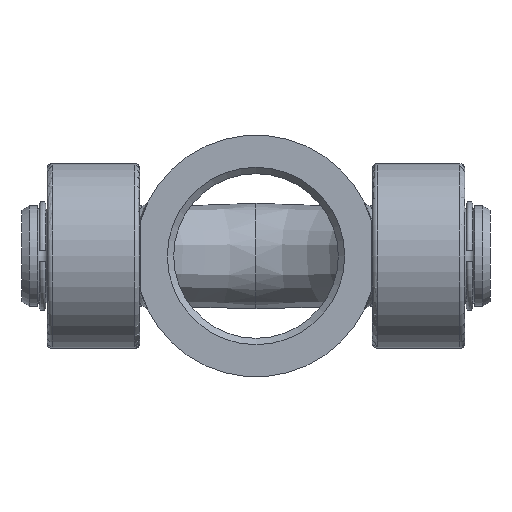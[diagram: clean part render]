
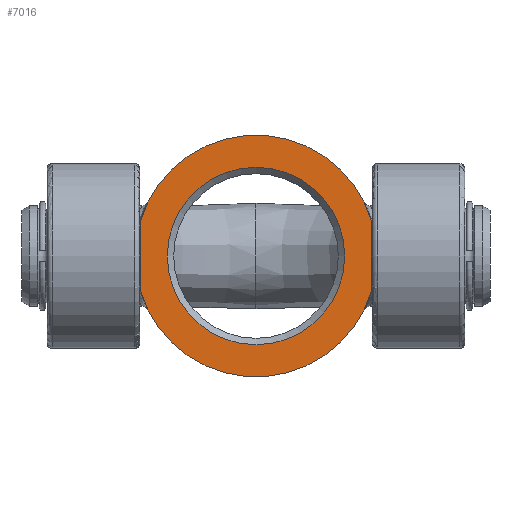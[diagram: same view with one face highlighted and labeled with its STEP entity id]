
A CAD part, front view. The second image highlights one B-rep face of the part: STEP entity #7016.
In plain terms, the highlighted planar face has unit normal (0, -1, 0) as drawn and (0, 0, -1) by its records, which use the part's own axes.
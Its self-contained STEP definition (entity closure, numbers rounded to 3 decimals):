
#290=LINE('',#9743,#700);
#296=LINE('',#10154,#706);
#700=VECTOR('',#8048,10.);
#706=VECTOR('',#8136,10.);
#1505=PLANE('',#7480);
#1752=FACE_BOUND('',#2237,.T.);
#1815=FACE_OUTER_BOUND('',#2236,.T.);
#2236=EDGE_LOOP('',(#4822,#4823,#4824,#4825));
#2237=EDGE_LOOP('',(#4826));
#2669=CIRCLE('',#7479,34.5);
#2670=CIRCLE('',#7481,47.);
#2671=CIRCLE('',#7482,47.);
#2872=VERTEX_POINT('',#9740);
#2873=VERTEX_POINT('',#9742);
#2910=VERTEX_POINT('',#10148);
#2911=VERTEX_POINT('',#10151);
#2912=VERTEX_POINT('',#10153);
#3627=EDGE_CURVE('',#2873,#2872,#290,.T.);
#3673=EDGE_CURVE('',#2910,#2910,#2669,.T.);
#3674=EDGE_CURVE('',#2872,#2911,#2670,.T.);
#3675=EDGE_CURVE('',#2911,#2912,#296,.T.);
#3676=EDGE_CURVE('',#2912,#2873,#2671,.T.);
#4822=ORIENTED_EDGE('',*,*,#3627,.T.);
#4823=ORIENTED_EDGE('',*,*,#3674,.T.);
#4824=ORIENTED_EDGE('',*,*,#3675,.T.);
#4825=ORIENTED_EDGE('',*,*,#3676,.T.);
#4826=ORIENTED_EDGE('',*,*,#3673,.F.);
#7016=ADVANCED_FACE('',(#1815,#1752),#1505,.F.);
#7479=AXIS2_PLACEMENT_3D('',#10149,#8130,#8131);
#7480=AXIS2_PLACEMENT_3D('',#10150,#8132,#8133);
#7481=AXIS2_PLACEMENT_3D('',#10152,#8134,#8135);
#7482=AXIS2_PLACEMENT_3D('',#10155,#8137,#8138);
#8048=DIRECTION('',(1.,0.,0.));
#8130=DIRECTION('center_axis',(0.,0.,-1.));
#8131=DIRECTION('ref_axis',(1.,0.,0.));
#8132=DIRECTION('center_axis',(0.,0.,1.));
#8133=DIRECTION('ref_axis',(1.,0.,0.));
#8134=DIRECTION('center_axis',(0.,0.,-1.));
#8135=DIRECTION('ref_axis',(-1.,0.,0.));
#8136=DIRECTION('',(-1.,0.,0.));
#8137=DIRECTION('center_axis',(0.,0.,-1.));
#8138=DIRECTION('ref_axis',(-1.,0.,0.));
#9740=CARTESIAN_POINT('',(13.565,45.,0.));
#9742=CARTESIAN_POINT('',(-13.565,45.,0.));
#9743=CARTESIAN_POINT('',(6.782,45.,0.));
#10148=CARTESIAN_POINT('',(-34.5,0.,0.));
#10149=CARTESIAN_POINT('Origin',(0.,0.,0.));
#10150=CARTESIAN_POINT('Origin',(0.,0.,
0.));
#10151=CARTESIAN_POINT('',(13.565,-45.,0.));
#10152=CARTESIAN_POINT('Origin',(0.,0.,0.));
#10153=CARTESIAN_POINT('',(-13.565,-45.,0.));
#10154=CARTESIAN_POINT('',(-6.782,-45.,0.));
#10155=CARTESIAN_POINT('Origin',(0.,0.,0.));
